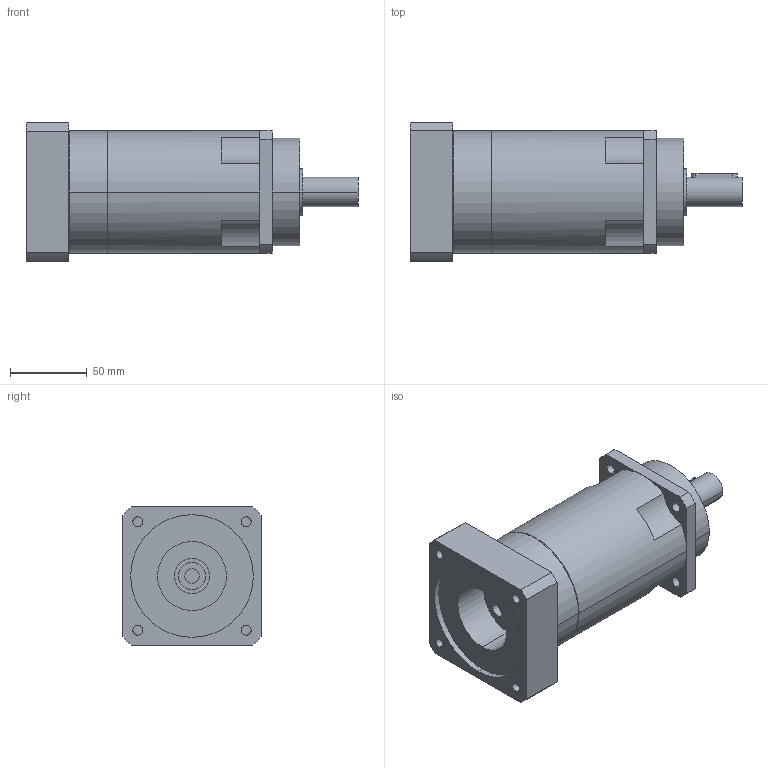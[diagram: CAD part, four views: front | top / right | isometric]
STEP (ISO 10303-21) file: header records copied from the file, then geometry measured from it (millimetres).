
FILE_DESCRIPTION(('CoCreate Modeling STEP Export'),'2;1');
FILE_NAME('GPR100_ig-48-64-80-100-120-144-180-216_19_B5_9.52_P28.stp','2014-08-26T11:58:00',(''),(''),'CoCreate Modeling STEP processor for AP214 (Solid Model)','CoCreate Modeling 16.00C 25-Feb-2009 (C) Parametric Technology GmbH','');
FILE_SCHEMA(('AUTOMOTIVE_DESIGN { 1 0 10303 214 1 1 1 1 }'));
Length unit declared in the file: millimetre
Products named in the file (2): GPR100_ig-48-64-80-100-120-144-180-216_19_B5_9.52_P28
Assembly tree (1 placements, depth 2):
  GPR100_ig-48-64-80-100-120-144-180-216_19_B5_9.52_P28
    GPR100_ig-48-64-80-100-120-144-180-216_19_B5_9.52_P28
Bounding box: 216.4 x 90 x 90 mm (x, y, z)
Volume: 910950.4 mm3; surface area: 78039.3 mm2
Topology: 1 solids, 1 shells, 89 faces, 244 edges, 166 vertices
Faces by surface type: cylinder 52, plane 31, cone 6
Entity records: 2597 total; most frequent: ORIENTED_EDGE 484, CARTESIAN_POINT 471, DIRECTION 386, EDGE_CURVE 242, VERTEX_POINT 166, AXIS2_PLACEMENT_3D 145, EDGE_LOOP 116, VECTOR 96
